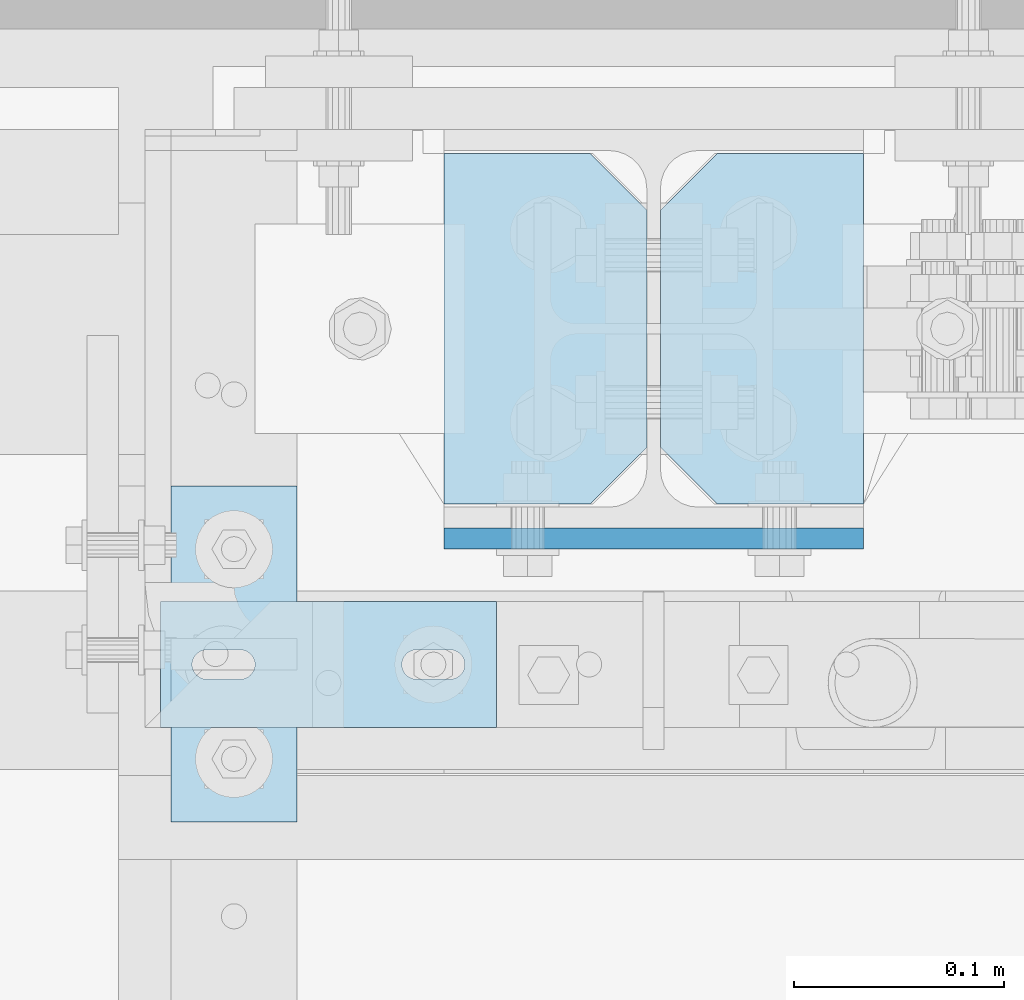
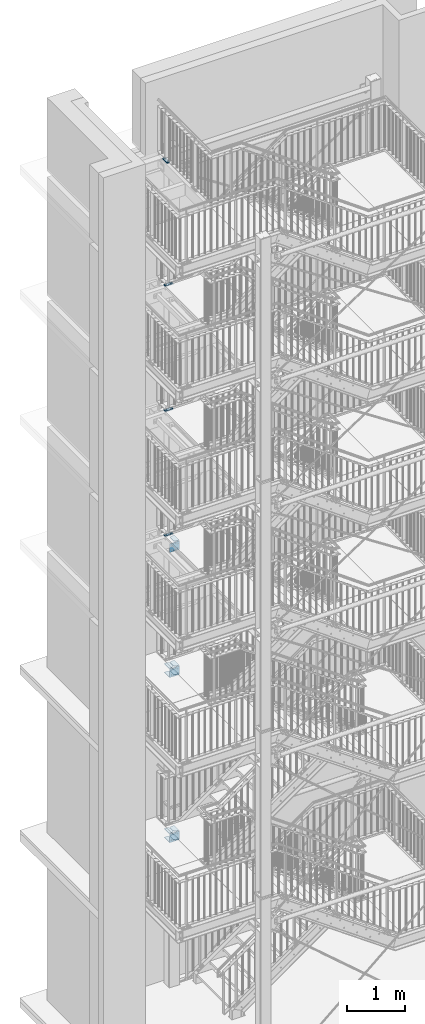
# One storey, part 185 of 825: 16 plates, 50 openings.
"""IFC2X3 building model written with IfcOpenShell, lengths in millimetres."""

from ifc_helpers import new_model, entity, si_unit, converted_unit, point, frame, frame_2d, origin, origin_with_axes, origin_2d_with_axis, place, context, project, spatial, polyline, circle_curve, line_curve, trimmed, segment, composite_curve, circle, outline, extrude, material, layer, layer_set, element, save


model = new_model("IFC2X3")

# Units and contexts
model_context = context("Model", 3, precision=1e-09, world=origin_with_axes())
ifc_project = project(units=[si_unit("LENGTHUNIT", "METRE", prefix="MILLI"), si_unit("AREAUNIT", "SQUARE_METRE"), si_unit("VOLUMEUNIT", "CUBIC_METRE"), converted_unit("PLANEANGLEUNIT", "DEGREE", entity("IfcPlaneAngleMeasure", 0.01745329), si_unit("PLANEANGLEUNIT", "RADIAN"), dimensions=[0, 0, 0, 0, 0, 0, 0])], contexts=[model_context])

# Site, building, storey
site_placement = place(None, origin_with_axes())
site = spatial("IfcSite", under=ifc_project, at=site_placement, Name="Cnopf'sche Kinderklinik", CompositionType="ELEMENT")
building_placement = place(site_placement, origin_with_axes())
building = spatial("IfcBuilding", under=site, at=building_placement, Name="Struktur 1", CompositionType="ELEMENT")
storey_placement = place(building_placement, origin_with_axes())
storey = spatial("IfcBuildingStorey", under=building, at=storey_placement, Name="Default Storey", CompositionType="ELEMENT", Elevation=0.0)

# Plate, openings
ifc_material = material(Name="S235JR")
ifc_layer_1 = layer(ifc_material, 20.0)
ifc_layer_set_1 = layer_set([ifc_layer_1], Name="S235JR")
plate_1_placement = place(None, frame((4781.713402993, 7386.736971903, 9952.0), z_axis=(0.0, 0.0, 1.0), x_axis=(-1.0, 0.0, 0.0)))
plate_1 = element("IfcPlate", 1, at=plate_1_placement, inside=storey, material=ifc_layer_set_1, Name="Plate#500", ObjectType="Plate#500", context=model_context, shape_type="SweptSolid", body=[
    extrude(outline(polyline([(0.0, 0.0), (160.0, 0.0), (160.0, 60.0), (0.0, 60.0), (0.0, 0.0)])), origin_with_axes(), (0.0, 0.0, 1.0), 20.0),
])
opening_1_placement = place(plate_1_placement, frame((38.0, 37.001, 20.5), z_axis=(0.0, 0.0, 1.0), x_axis=(-1.0, 0.0, 0.0)))
element("IfcOpeningElement", 2, at=opening_1_placement, cuts=plate_1, ObjectType="Opening", context=model_context, shape_type="SweptSolid", body=[
    extrude(outline(composite_curve([segment(trimmed(line_curve((0.0, 0.0), (1.0, 0.0), 16.0), [point((0.0, 0.0))], [point((16.0, 0.0))], True, "CARTESIAN"), True, "CONTINUOUS"), segment(trimmed(circle_curve(frame_2d((16.0, 7.001), x_axis=(1.0, 0.0)), 7.001), [point((16.0, 0.0))], [point((16.0, 14.002))], True, "CARTESIAN"), True, "CONTINUOUS"), segment(trimmed(line_curve((16.0, 14.002), (-1.0, 0.0), 16.0), [point((16.0, 14.002))], [point((0.0, 14.002))], True, "CARTESIAN"), True, "CONTINUOUS"), segment(trimmed(circle_curve(frame_2d((0.0, 7.001), x_axis=(1.0, 0.0)), 7.001), [point((0.0, 14.002))], [point((0.0, 0.0))], True, "CARTESIAN"), True, "CONTINUOUS")], self_intersect=False)), origin(), (0.0, 0.0, -1.0), 21.0),
])
opening_2_placement = place(plate_1_placement, frame((138.0, 37.001, 20.5), z_axis=(0.0, 0.0, 1.0), x_axis=(-1.0, 0.0, 0.0)))
element("IfcOpeningElement", 3, at=opening_2_placement, cuts=plate_1, ObjectType="Opening", context=model_context, shape_type="SweptSolid", body=[
    extrude(outline(composite_curve([segment(trimmed(line_curve((0.0, 0.0), (1.0, 0.0), 16.0), [point((0.0, 0.0))], [point((16.0, 0.0))], True, "CARTESIAN"), True, "CONTINUOUS"), segment(trimmed(circle_curve(frame_2d((16.0, 7.001), x_axis=(1.0, 0.0)), 7.001), [point((16.0, 0.0))], [point((16.0, 14.002))], True, "CARTESIAN"), True, "CONTINUOUS"), segment(trimmed(line_curve((16.0, 14.002), (-1.0, 0.0), 16.0), [point((16.0, 14.002))], [point((0.0, 14.002))], True, "CARTESIAN"), True, "CONTINUOUS"), segment(trimmed(circle_curve(frame_2d((0.0, 7.001), x_axis=(1.0, 0.0)), 7.001), [point((0.0, 14.002))], [point((0.0, 0.0))], True, "CARTESIAN"), True, "CONTINUOUS")], self_intersect=False)), origin(), (0.0, 0.0, -1.0), 21.0),
])

plate_2_placement = place(None, frame((4781.713402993, 7386.736971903, 12579.0), z_axis=(0.0, 0.0, 1.0), x_axis=(-1.0, 0.0, 0.0)))
plate_2 = element("IfcPlate", 4, at=plate_2_placement, inside=storey, material=ifc_layer_set_1, Name="Plate#500", ObjectType="Plate#500", context=model_context, shape_type="SweptSolid", body=[
    extrude(outline(polyline([(0.0, 0.0), (160.0, 0.0), (160.0, 60.0), (0.0, 60.0), (0.0, 0.0)])), origin_with_axes(), (0.0, 0.0, 1.0), 20.0),
])
opening_3_placement = place(plate_2_placement, frame((38.0, 37.001, 20.5), z_axis=(0.0, 0.0, 1.0), x_axis=(-1.0, 0.0, 0.0)))
element("IfcOpeningElement", 5, at=opening_3_placement, cuts=plate_2, ObjectType="Opening", context=model_context, shape_type="SweptSolid", body=[
    extrude(outline(composite_curve([segment(trimmed(line_curve((0.0, 0.0), (1.0, 0.0), 16.0), [point((0.0, 0.0))], [point((16.0, 0.0))], True, "CARTESIAN"), True, "CONTINUOUS"), segment(trimmed(circle_curve(frame_2d((16.0, 7.001), x_axis=(1.0, 0.0)), 7.001), [point((16.0, 0.0))], [point((16.0, 14.002))], True, "CARTESIAN"), True, "CONTINUOUS"), segment(trimmed(line_curve((16.0, 14.002), (-1.0, 0.0), 16.0), [point((16.0, 14.002))], [point((0.0, 14.002))], True, "CARTESIAN"), True, "CONTINUOUS"), segment(trimmed(circle_curve(frame_2d((0.0, 7.001), x_axis=(1.0, 0.0)), 7.001), [point((0.0, 14.002))], [point((0.0, 0.0))], True, "CARTESIAN"), True, "CONTINUOUS")], self_intersect=False)), origin(), (0.0, 0.0, -1.0), 21.0),
])
opening_4_placement = place(plate_2_placement, frame((138.0, 37.001, 20.5), z_axis=(0.0, 0.0, 1.0), x_axis=(-1.0, 0.0, 0.0)))
element("IfcOpeningElement", 6, at=opening_4_placement, cuts=plate_2, ObjectType="Opening", context=model_context, shape_type="SweptSolid", body=[
    extrude(outline(composite_curve([segment(trimmed(line_curve((0.0, 0.0), (1.0, 0.0), 16.0), [point((0.0, 0.0))], [point((16.0, 0.0))], True, "CARTESIAN"), True, "CONTINUOUS"), segment(trimmed(circle_curve(frame_2d((16.0, 7.001), x_axis=(1.0, 0.0)), 7.001), [point((16.0, 0.0))], [point((16.0, 14.002))], True, "CARTESIAN"), True, "CONTINUOUS"), segment(trimmed(line_curve((16.0, 14.002), (-1.0, 0.0), 16.0), [point((16.0, 14.002))], [point((0.0, 14.002))], True, "CARTESIAN"), True, "CONTINUOUS"), segment(trimmed(circle_curve(frame_2d((0.0, 7.001), x_axis=(1.0, 0.0)), 7.001), [point((0.0, 14.002))], [point((0.0, 0.0))], True, "CARTESIAN"), True, "CONTINUOUS")], self_intersect=False)), origin(), (0.0, 0.0, -1.0), 21.0),
])

plate_3_placement = place(None, frame((4781.713402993, 7386.736971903, 15214.0), z_axis=(0.0, 0.0, 1.0), x_axis=(-1.0, 0.0, 0.0)))
plate_3 = element("IfcPlate", 7, at=plate_3_placement, inside=storey, material=ifc_layer_set_1, Name="Plate#500", ObjectType="Plate#500", context=model_context, shape_type="SweptSolid", body=[
    extrude(outline(polyline([(0.0, 0.0), (160.0, 0.0), (160.0, 60.0), (0.0, 60.0), (0.0, 0.0)])), origin_with_axes(), (0.0, 0.0, 1.0), 20.0),
])
opening_5_placement = place(plate_3_placement, frame((38.0, 37.001, 20.5), z_axis=(0.0, 0.0, 1.0), x_axis=(-1.0, 0.0, 0.0)))
element("IfcOpeningElement", 8, at=opening_5_placement, cuts=plate_3, ObjectType="Opening", context=model_context, shape_type="SweptSolid", body=[
    extrude(outline(composite_curve([segment(trimmed(line_curve((0.0, 0.0), (1.0, 0.0), 16.0), [point((0.0, 0.0))], [point((16.0, 0.0))], True, "CARTESIAN"), True, "CONTINUOUS"), segment(trimmed(circle_curve(frame_2d((16.0, 7.001), x_axis=(1.0, 0.0)), 7.001), [point((16.0, 0.0))], [point((16.0, 14.002))], True, "CARTESIAN"), True, "CONTINUOUS"), segment(trimmed(line_curve((16.0, 14.002), (-1.0, 0.0), 16.0), [point((16.0, 14.002))], [point((0.0, 14.002))], True, "CARTESIAN"), True, "CONTINUOUS"), segment(trimmed(circle_curve(frame_2d((0.0, 7.001), x_axis=(1.0, 0.0)), 7.001), [point((0.0, 14.002))], [point((0.0, 0.0))], True, "CARTESIAN"), True, "CONTINUOUS")], self_intersect=False)), origin(), (0.0, 0.0, -1.0), 21.0),
])
opening_6_placement = place(plate_3_placement, frame((138.0, 37.001, 20.5), z_axis=(0.0, 0.0, 1.0), x_axis=(-1.0, 0.0, 0.0)))
element("IfcOpeningElement", 9, at=opening_6_placement, cuts=plate_3, ObjectType="Opening", context=model_context, shape_type="SweptSolid", body=[
    extrude(outline(composite_curve([segment(trimmed(line_curve((0.0, 0.0), (1.0, 0.0), 16.0), [point((0.0, 0.0))], [point((16.0, 0.0))], True, "CARTESIAN"), True, "CONTINUOUS"), segment(trimmed(circle_curve(frame_2d((16.0, 7.001), x_axis=(1.0, 0.0)), 7.001), [point((16.0, 0.0))], [point((16.0, 14.002))], True, "CARTESIAN"), True, "CONTINUOUS"), segment(trimmed(line_curve((16.0, 14.002), (-1.0, 0.0), 16.0), [point((16.0, 14.002))], [point((0.0, 14.002))], True, "CARTESIAN"), True, "CONTINUOUS"), segment(trimmed(circle_curve(frame_2d((0.0, 7.001), x_axis=(1.0, 0.0)), 7.001), [point((0.0, 14.002))], [point((0.0, 0.0))], True, "CARTESIAN"), True, "CONTINUOUS")], self_intersect=False)), origin(), (0.0, 0.0, -1.0), 21.0),
])

plate_4_placement = place(None, frame((4626.713402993, 7441.736971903, 17834.0), z_axis=(0.0, 0.0, 1.0), x_axis=(0.0, -1.0, 0.0)))
plate_4 = element("IfcPlate", 10, at=plate_4_placement, inside=storey, material=ifc_layer_set_1, Name="Plate#504", ObjectType="Plate#504", context=model_context, shape_type="SweptSolid", body=[
    extrude(outline(polyline([(0.0, 0.0), (160.0, 0.0), (160.0, 60.0), (0.0, 60.0), (0.0, 0.0)])), origin_with_axes(), (0.0, 0.0, 1.0), 20.0),
])
opening_7_placement = place(plate_4_placement, frame((38.0, 37.001, 20.5), z_axis=(0.0, 0.0, 1.0), x_axis=(-1.0, 0.0, 0.0)))
element("IfcOpeningElement", 11, at=opening_7_placement, cuts=plate_4, ObjectType="Opening", context=model_context, shape_type="SweptSolid", body=[
    extrude(outline(composite_curve([segment(trimmed(line_curve((0.0, 0.0), (1.0, 0.0), 16.0), [point((0.0, 0.0))], [point((16.0, 0.0))], True, "CARTESIAN"), True, "CONTINUOUS"), segment(trimmed(circle_curve(frame_2d((16.0, 7.001), x_axis=(1.0, 0.0)), 7.001), [point((16.0, 0.0))], [point((16.0, 14.002))], True, "CARTESIAN"), True, "CONTINUOUS"), segment(trimmed(line_curve((16.0, 14.002), (-1.0, 0.0), 16.0), [point((16.0, 14.002))], [point((0.0, 14.002))], True, "CARTESIAN"), True, "CONTINUOUS"), segment(trimmed(circle_curve(frame_2d((0.0, 7.001), x_axis=(1.0, 0.0)), 7.001), [point((0.0, 14.002))], [point((0.0, 0.0))], True, "CARTESIAN"), True, "CONTINUOUS")], self_intersect=False)), origin(), (0.0, 0.0, -1.0), 21.0),
])
opening_8_placement = place(plate_4_placement, frame((138.0, 37.001, 20.5), z_axis=(0.0, 0.0, 1.0), x_axis=(-1.0, 0.0, 0.0)))
element("IfcOpeningElement", 12, at=opening_8_placement, cuts=plate_4, ObjectType="Opening", context=model_context, shape_type="SweptSolid", body=[
    extrude(outline(composite_curve([segment(trimmed(line_curve((0.0, 0.0), (1.0, 0.0), 16.0), [point((0.0, 0.0))], [point((16.0, 0.0))], True, "CARTESIAN"), True, "CONTINUOUS"), segment(trimmed(circle_curve(frame_2d((16.0, 7.001), x_axis=(1.0, 0.0)), 7.001), [point((16.0, 0.0))], [point((16.0, 14.002))], True, "CARTESIAN"), True, "CONTINUOUS"), segment(trimmed(line_curve((16.0, 14.002), (-1.0, 0.0), 16.0), [point((16.0, 14.002))], [point((0.0, 14.002))], True, "CARTESIAN"), True, "CONTINUOUS"), segment(trimmed(circle_curve(frame_2d((0.0, 7.001), x_axis=(1.0, 0.0)), 7.001), [point((0.0, 14.002))], [point((0.0, 0.0))], True, "CARTESIAN"), True, "CONTINUOUS")], self_intersect=False)), origin(), (0.0, 0.0, -1.0), 21.0),
])

ifc_layer_2 = layer(ifc_material, 10.0)
ifc_layer_set_2 = layer_set([ifc_layer_2], Name="S235JR")
plate_5_placement = place(None, frame((4856.713402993, 7411.736971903, 3512.0), z_axis=(0.0, 1.0, 0.0), x_axis=(0.0, 0.0, -1.0)))
plate_5 = element("IfcPlate", 13, at=plate_5_placement, inside=storey, material=ifc_layer_set_2, Name="Endplate", ObjectType="Endplate", context=model_context, shape_type="SweptSolid", body=[
    extrude(outline(polyline([(-90.0, -100.0), (90.0, -100.0), (90.0, 100.0), (-90.0, 100.0), (-90.0, -100.0)])), origin_with_axes(), (0.0, 0.0, 1.0), 10.0),
])
opening_9_placement = place(plate_5_placement, frame((-67.0, 21.25, 10.5), z_axis=(0.0, 0.0, -1.0), x_axis=(-1.0, 0.0, 0.0)))
element("IfcOpeningElement", 14, at=opening_9_placement, cuts=plate_5, ObjectType="Opening", context=model_context, shape_type="SweptSolid", body=[
    extrude(circle(Radius=6.001, at=origin_2d_with_axis()), origin(), (0.0, 0.0, 1.0), 11.0),
])
opening_10_placement = place(plate_5_placement, frame((67.0, 21.25, 10.5), z_axis=(0.0, 0.0, -1.0), x_axis=(-1.0, 0.0, 0.0)))
element("IfcOpeningElement", 15, at=opening_10_placement, cuts=plate_5, ObjectType="Opening", context=model_context, shape_type="SweptSolid", body=[
    extrude(circle(Radius=6.001, at=origin_2d_with_axis()), origin(), (0.0, 0.0, 1.0), 11.0),
])
opening_11_placement = place(plate_5_placement, frame((67.0, -21.25, 10.5), z_axis=(0.0, 0.0, -1.0), x_axis=(-1.0, 0.0, 0.0)))
element("IfcOpeningElement", 16, at=opening_11_placement, cuts=plate_5, ObjectType="Opening", context=model_context, shape_type="SweptSolid", body=[
    extrude(circle(Radius=6.001, at=origin_2d_with_axis()), origin(), (0.0, 0.0, 1.0), 11.0),
])
opening_12_placement = place(plate_5_placement, frame((-67.0, -21.25, 10.5), z_axis=(0.0, 0.0, -1.0), x_axis=(-1.0, 0.0, 0.0)))
element("IfcOpeningElement", 17, at=opening_12_placement, cuts=plate_5, ObjectType="Opening", context=model_context, shape_type="SweptSolid", body=[
    extrude(circle(Radius=6.001, at=origin_2d_with_axis()), origin(), (0.0, 0.0, 1.0), 11.0),
])
opening_13_placement = place(plate_5_placement, frame((-45.0, -60.0, 10.5), z_axis=(0.0, 0.0, -1.0), x_axis=(0.0, -1.0, 0.0)))
element("IfcOpeningElement", 18, at=opening_13_placement, cuts=plate_5, ObjectType="Opening", context=model_context, shape_type="SweptSolid", body=[
    extrude(circle(Radius=9.001, at=origin_2d_with_axis()), origin(), (0.0, 0.0, 1.0), 11.0),
])
opening_14_placement = place(plate_5_placement, frame((45.0, -60.0, 10.5), z_axis=(0.0, 0.0, -1.0), x_axis=(0.0, -1.0, 0.0)))
element("IfcOpeningElement", 19, at=opening_14_placement, cuts=plate_5, ObjectType="Opening", context=model_context, shape_type="SweptSolid", body=[
    extrude(circle(Radius=9.001, at=origin_2d_with_axis()), origin(), (0.0, 0.0, 1.0), 11.0),
])
opening_15_placement = place(plate_5_placement, frame((45.0, 60.0, 10.5), z_axis=(0.0, 0.0, -1.0), x_axis=(0.0, 1.0, 0.0)))
element("IfcOpeningElement", 20, at=opening_15_placement, cuts=plate_5, ObjectType="Opening", context=model_context, shape_type="SweptSolid", body=[
    extrude(circle(Radius=9.001, at=origin_2d_with_axis()), origin(), (0.0, 0.0, 1.0), 11.0),
])
opening_16_placement = place(plate_5_placement, frame((-45.0, 60.0, 10.5), z_axis=(0.0, 0.0, -1.0), x_axis=(0.0, 1.0, 0.0)))
element("IfcOpeningElement", 21, at=opening_16_placement, cuts=plate_5, ObjectType="Opening", context=model_context, shape_type="SweptSolid", body=[
    extrude(circle(Radius=9.001, at=origin_2d_with_axis()), origin(), (0.0, 0.0, 1.0), 11.0),
])

plate_6_placement = place(None, frame((4859.963402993, 7433.236971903, 3597.0), z_axis=(0.0, 0.0, 1.0), x_axis=(1.0, 0.0, 0.0)))
plate_6 = element("IfcPlate", 22, at=plate_6_placement, inside=storey, material=ifc_layer_set_2, Name="Stiffener#1", ObjectType="Stiffener#1", context=model_context, shape_type="SweptSolid", body=[
    extrude(outline(polyline([(0.0, 0.0), (96.75, 0.0), (96.75, 167.0), (0.0, 167.0), (0.0, 0.0)])), origin_with_axes(), (0.0, 0.0, 1.0), 10.0),
])
opening_17_placement = place(plate_6_placement, frame((0.0, 0.0, -0.01), z_axis=(0.0, 0.0, 1.0), x_axis=(1.0, 0.0, 0.0)))
element("IfcOpeningElement", 23, at=opening_17_placement, cuts=plate_6, ObjectType="Opening", context=model_context, shape_type="SweptSolid", body=[
    extrude(outline(polyline([(0.0, 167.0), (0.0, 140.0), (27.0, 167.0), (0.0, 167.0)])), origin(), (0.0, 0.0, 1.0), 10.02),
])
opening_18_placement = place(plate_6_placement, frame((0.0, 0.0, -0.01), z_axis=(0.0, 0.0, 1.0), x_axis=(1.0, 0.0, 0.0)))
element("IfcOpeningElement", 24, at=opening_18_placement, cuts=plate_6, ObjectType="Opening", context=model_context, shape_type="SweptSolid", body=[
    extrude(outline(polyline([(0.0, 0.0), (27.0, 0.0), (0.0, 27.0), (0.0, 0.0)])), origin(), (0.0, 0.0, 1.0), 10.02),
])

plate_7_placement = place(None, frame((4756.713402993, 7433.236971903, 3597.0), z_axis=(0.0, 0.0, 1.0), x_axis=(1.0, 0.0, 0.0)))
plate_7 = element("IfcPlate", 25, at=plate_7_placement, inside=storey, material=ifc_layer_set_2, Name="Stiffener#2", ObjectType="Stiffener#2", context=model_context, shape_type="SweptSolid", body=[
    extrude(outline(polyline([(0.0, 0.0), (96.75, 0.0), (96.75, 167.0), (0.0, 167.0), (0.0, 0.0)])), origin_with_axes(), (0.0, 0.0, 1.0), 10.0),
])
opening_19_placement = place(plate_7_placement, frame((0.0, 0.0, -0.01), z_axis=(0.0, 0.0, 1.0), x_axis=(1.0, 0.0, 0.0)))
element("IfcOpeningElement", 26, at=opening_19_placement, cuts=plate_7, ObjectType="Opening", context=model_context, shape_type="SweptSolid", body=[
    extrude(outline(polyline([(96.75, 167.0), (69.75, 167.0), (96.75, 140.0), (96.75, 167.0)])), origin(), (0.0, 0.0, 1.0), 10.02),
])
opening_20_placement = place(plate_7_placement, frame((0.0, 0.0, -0.01), z_axis=(0.0, 0.0, 1.0), x_axis=(1.0, 0.0, 0.0)))
element("IfcOpeningElement", 27, at=opening_20_placement, cuts=plate_7, ObjectType="Opening", context=model_context, shape_type="SweptSolid", body=[
    extrude(outline(polyline([(96.75, 0.0), (96.75, 27.0), (69.75, 0.0), (96.75, 0.0)])), origin(), (0.0, 0.0, 1.0), 10.02),
])

plate_8_placement = place(None, frame((4956.713402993, 7433.236971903, 3427.0), z_axis=(0.0, 0.0, -1.0), x_axis=(-1.0, 0.0, 0.0)))
plate_8 = element("IfcPlate", 28, at=plate_8_placement, inside=storey, material=ifc_layer_set_2, Name="Stiffener#3", ObjectType="Stiffener#3", context=model_context, shape_type="SweptSolid", body=[
    extrude(outline(polyline([(0.0, 0.0), (96.75, 0.0), (96.75, 167.0), (0.0, 167.0), (0.0, 0.0)])), origin_with_axes(), (0.0, 0.0, 1.0), 10.0),
])
opening_21_placement = place(plate_8_placement, frame((0.0, 0.0, -0.01), z_axis=(0.0, 0.0, 1.0), x_axis=(1.0, 0.0, 0.0)))
element("IfcOpeningElement", 29, at=opening_21_placement, cuts=plate_8, ObjectType="Opening", context=model_context, shape_type="SweptSolid", body=[
    extrude(outline(polyline([(96.75, 167.0), (69.75, 167.0), (96.75, 140.0), (96.75, 167.0)])), origin(), (0.0, 0.0, 1.0), 10.02),
])
opening_22_placement = place(plate_8_placement, frame((0.0, 0.0, -0.01), z_axis=(0.0, 0.0, 1.0), x_axis=(1.0, 0.0, 0.0)))
element("IfcOpeningElement", 30, at=opening_22_placement, cuts=plate_8, ObjectType="Opening", context=model_context, shape_type="SweptSolid", body=[
    extrude(outline(polyline([(96.75, 0.0), (96.75, 27.0), (69.75, 0.0), (96.75, 0.0)])), origin(), (0.0, 0.0, 1.0), 10.02),
])

plate_9_placement = place(None, frame((4853.463402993, 7433.236971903, 3427.0), z_axis=(0.0, 0.0, -1.0), x_axis=(-1.0, 0.0, 0.0)))
plate_9 = element("IfcPlate", 31, at=plate_9_placement, inside=storey, material=ifc_layer_set_2, Name="Stiffener#4", ObjectType="Stiffener#4", context=model_context, shape_type="SweptSolid", body=[
    extrude(outline(polyline([(0.0, 0.0), (96.75, 0.0), (96.75, 167.0), (0.0, 167.0), (0.0, 0.0)])), origin_with_axes(), (0.0, 0.0, 1.0), 10.0),
])
opening_23_placement = place(plate_9_placement, frame((0.0, 0.0, -0.01), z_axis=(0.0, 0.0, 1.0), x_axis=(1.0, 0.0, 0.0)))
element("IfcOpeningElement", 32, at=opening_23_placement, cuts=plate_9, ObjectType="Opening", context=model_context, shape_type="SweptSolid", body=[
    extrude(outline(polyline([(0.0, 167.0), (0.0, 140.0), (27.0, 167.0), (0.0, 167.0)])), origin(), (0.0, 0.0, 1.0), 10.02),
])
opening_24_placement = place(plate_9_placement, frame((0.0, 0.0, -0.01), z_axis=(0.0, 0.0, 1.0), x_axis=(1.0, 0.0, 0.0)))
element("IfcOpeningElement", 33, at=opening_24_placement, cuts=plate_9, ObjectType="Opening", context=model_context, shape_type="SweptSolid", body=[
    extrude(outline(polyline([(0.0, 0.0), (27.0, 0.0), (0.0, 27.0), (0.0, 0.0)])), origin(), (0.0, 0.0, 1.0), 10.02),
])

plate_10_placement = place(None, frame((4856.713402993, 7411.736971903, 6985.0), z_axis=(0.0, 1.0, 0.0), x_axis=(0.0, 0.0, -1.0)))
plate_10 = element("IfcPlate", 34, at=plate_10_placement, inside=storey, material=ifc_layer_set_2, Name="Endplate", ObjectType="Endplate", context=model_context, shape_type="SweptSolid", body=[
    extrude(outline(polyline([(-90.0, -100.0), (90.0, -100.0), (90.0, 100.0), (-90.0, 100.0), (-90.0, -100.0)])), origin_with_axes(), (0.0, 0.0, 1.0), 10.0),
])
opening_25_placement = place(plate_10_placement, frame((-67.0, 21.25, 10.5), z_axis=(0.0, 0.0, -1.0), x_axis=(-1.0, 0.0, 0.0)))
element("IfcOpeningElement", 35, at=opening_25_placement, cuts=plate_10, ObjectType="Opening", context=model_context, shape_type="SweptSolid", body=[
    extrude(circle(Radius=6.001, at=origin_2d_with_axis()), origin(), (0.0, 0.0, 1.0), 11.0),
])
opening_26_placement = place(plate_10_placement, frame((67.0, 21.25, 10.5), z_axis=(0.0, 0.0, -1.0), x_axis=(-1.0, 0.0, 0.0)))
element("IfcOpeningElement", 36, at=opening_26_placement, cuts=plate_10, ObjectType="Opening", context=model_context, shape_type="SweptSolid", body=[
    extrude(circle(Radius=6.001, at=origin_2d_with_axis()), origin(), (0.0, 0.0, 1.0), 11.0),
])
opening_27_placement = place(plate_10_placement, frame((67.0, -21.25, 10.5), z_axis=(0.0, 0.0, -1.0), x_axis=(-1.0, 0.0, 0.0)))
element("IfcOpeningElement", 37, at=opening_27_placement, cuts=plate_10, ObjectType="Opening", context=model_context, shape_type="SweptSolid", body=[
    extrude(circle(Radius=6.001, at=origin_2d_with_axis()), origin(), (0.0, 0.0, 1.0), 11.0),
])
opening_28_placement = place(plate_10_placement, frame((-67.0, -21.25, 10.5), z_axis=(0.0, 0.0, -1.0), x_axis=(-1.0, 0.0, 0.0)))
element("IfcOpeningElement", 38, at=opening_28_placement, cuts=plate_10, ObjectType="Opening", context=model_context, shape_type="SweptSolid", body=[
    extrude(circle(Radius=6.001, at=origin_2d_with_axis()), origin(), (0.0, 0.0, 1.0), 11.0),
])
opening_29_placement = place(plate_10_placement, frame((-45.0, -60.0, 10.5), z_axis=(0.0, 0.0, -1.0), x_axis=(0.0, -1.0, 0.0)))
element("IfcOpeningElement", 39, at=opening_29_placement, cuts=plate_10, ObjectType="Opening", context=model_context, shape_type="SweptSolid", body=[
    extrude(circle(Radius=9.001, at=origin_2d_with_axis()), origin(), (0.0, 0.0, 1.0), 11.0),
])
opening_30_placement = place(plate_10_placement, frame((45.0, -60.0, 10.5), z_axis=(0.0, 0.0, -1.0), x_axis=(0.0, -1.0, 0.0)))
element("IfcOpeningElement", 40, at=opening_30_placement, cuts=plate_10, ObjectType="Opening", context=model_context, shape_type="SweptSolid", body=[
    extrude(circle(Radius=9.001, at=origin_2d_with_axis()), origin(), (0.0, 0.0, 1.0), 11.0),
])
opening_31_placement = place(plate_10_placement, frame((-45.0, 60.0, 10.5), z_axis=(0.0, 0.0, -1.0), x_axis=(0.0, 1.0, 0.0)))
element("IfcOpeningElement", 41, at=opening_31_placement, cuts=plate_10, ObjectType="Opening", context=model_context, shape_type="SweptSolid", body=[
    extrude(circle(Radius=9.001, at=origin_2d_with_axis()), origin(), (0.0, 0.0, 1.0), 11.0),
])
opening_32_placement = place(plate_10_placement, frame((45.0, 60.0, 10.5), z_axis=(0.0, 0.0, -1.0), x_axis=(0.0, 1.0, 0.0)))
element("IfcOpeningElement", 42, at=opening_32_placement, cuts=plate_10, ObjectType="Opening", context=model_context, shape_type="SweptSolid", body=[
    extrude(circle(Radius=9.001, at=origin_2d_with_axis()), origin(), (0.0, 0.0, 1.0), 11.0),
])

plate_11_placement = place(None, frame((4859.963402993, 7433.236971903, 7070.0), z_axis=(0.0, 0.0, 1.0), x_axis=(1.0, 0.0, 0.0)))
plate_11 = element("IfcPlate", 43, at=plate_11_placement, inside=storey, material=ifc_layer_set_2, Name="Stiffener#1", ObjectType="Stiffener#1", context=model_context, shape_type="SweptSolid", body=[
    extrude(outline(polyline([(0.0, 0.0), (96.75, 0.0), (96.75, 167.0), (0.0, 167.0), (0.0, 0.0)])), origin_with_axes(), (0.0, 0.0, 1.0), 10.0),
])
opening_33_placement = place(plate_11_placement, frame((0.0, 0.0, -0.01), z_axis=(0.0, 0.0, 1.0), x_axis=(1.0, 0.0, 0.0)))
element("IfcOpeningElement", 44, at=opening_33_placement, cuts=plate_11, ObjectType="Opening", context=model_context, shape_type="SweptSolid", body=[
    extrude(outline(polyline([(0.0, 167.0), (0.0, 140.0), (27.0, 167.0), (0.0, 167.0)])), origin(), (0.0, 0.0, 1.0), 10.02),
])
opening_34_placement = place(plate_11_placement, frame((0.0, 0.0, -0.01), z_axis=(0.0, 0.0, 1.0), x_axis=(1.0, 0.0, 0.0)))
element("IfcOpeningElement", 45, at=opening_34_placement, cuts=plate_11, ObjectType="Opening", context=model_context, shape_type="SweptSolid", body=[
    extrude(outline(polyline([(0.0, 0.0), (27.0, 0.0), (0.0, 27.0), (0.0, 0.0)])), origin(), (0.0, 0.0, 1.0), 10.02),
])

plate_12_placement = place(None, frame((4756.713402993, 7433.236971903, 7070.0), z_axis=(0.0, 0.0, 1.0), x_axis=(1.0, 0.0, 0.0)))
plate_12 = element("IfcPlate", 46, at=plate_12_placement, inside=storey, material=ifc_layer_set_2, Name="Stiffener#2", ObjectType="Stiffener#2", context=model_context, shape_type="SweptSolid", body=[
    extrude(outline(polyline([(0.0, 0.0), (96.75, 0.0), (96.75, 167.0), (0.0, 167.0), (0.0, 0.0)])), origin_with_axes(), (0.0, 0.0, 1.0), 10.0),
])
opening_35_placement = place(plate_12_placement, frame((0.0, 0.0, -0.01), z_axis=(0.0, 0.0, 1.0), x_axis=(1.0, 0.0, 0.0)))
element("IfcOpeningElement", 47, at=opening_35_placement, cuts=plate_12, ObjectType="Opening", context=model_context, shape_type="SweptSolid", body=[
    extrude(outline(polyline([(96.75, 167.0), (69.75, 167.0), (96.75, 140.0), (96.75, 167.0)])), origin(), (0.0, 0.0, 1.0), 10.02),
])
opening_36_placement = place(plate_12_placement, frame((0.0, 0.0, -0.01), z_axis=(0.0, 0.0, 1.0), x_axis=(1.0, 0.0, 0.0)))
element("IfcOpeningElement", 48, at=opening_36_placement, cuts=plate_12, ObjectType="Opening", context=model_context, shape_type="SweptSolid", body=[
    extrude(outline(polyline([(96.75, 0.0), (96.75, 27.0), (69.75, 0.0), (96.75, 0.0)])), origin(), (0.0, 0.0, 1.0), 10.02),
])

plate_13_placement = place(None, frame((4956.713402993, 7433.236971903, 6900.0), z_axis=(0.0, 0.0, -1.0), x_axis=(-1.0, 0.0, 0.0)))
plate_13 = element("IfcPlate", 49, at=plate_13_placement, inside=storey, material=ifc_layer_set_2, Name="Stiffener#3", ObjectType="Stiffener#3", context=model_context, shape_type="SweptSolid", body=[
    extrude(outline(polyline([(0.0, 0.0), (96.75, 0.0), (96.75, 167.0), (0.0, 167.0), (0.0, 0.0)])), origin_with_axes(), (0.0, 0.0, 1.0), 10.0),
])
opening_37_placement = place(plate_13_placement, frame((0.0, 0.0, -0.01), z_axis=(0.0, 0.0, 1.0), x_axis=(1.0, 0.0, 0.0)))
element("IfcOpeningElement", 50, at=opening_37_placement, cuts=plate_13, ObjectType="Opening", context=model_context, shape_type="SweptSolid", body=[
    extrude(outline(polyline([(96.75, 167.0), (69.75, 167.0), (96.75, 140.0), (96.75, 167.0)])), origin(), (0.0, 0.0, 1.0), 10.02),
])
opening_38_placement = place(plate_13_placement, frame((0.0, 0.0, -0.01), z_axis=(0.0, 0.0, 1.0), x_axis=(1.0, 0.0, 0.0)))
element("IfcOpeningElement", 51, at=opening_38_placement, cuts=plate_13, ObjectType="Opening", context=model_context, shape_type="SweptSolid", body=[
    extrude(outline(polyline([(96.75, 0.0), (96.75, 27.0), (69.75, 0.0), (96.75, 0.0)])), origin(), (0.0, 0.0, 1.0), 10.02),
])

plate_14_placement = place(None, frame((4853.463402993, 7433.236971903, 6900.0), z_axis=(0.0, 0.0, -1.0), x_axis=(-1.0, 0.0, 0.0)))
plate_14 = element("IfcPlate", 52, at=plate_14_placement, inside=storey, material=ifc_layer_set_2, Name="Stiffener#4", ObjectType="Stiffener#4", context=model_context, shape_type="SweptSolid", body=[
    extrude(outline(polyline([(0.0, 0.0), (96.75, 0.0), (96.75, 167.0), (0.0, 167.0), (0.0, 0.0)])), origin_with_axes(), (0.0, 0.0, 1.0), 10.0),
])
opening_39_placement = place(plate_14_placement, frame((0.0, 0.0, -0.01), z_axis=(0.0, 0.0, 1.0), x_axis=(1.0, 0.0, 0.0)))
element("IfcOpeningElement", 53, at=opening_39_placement, cuts=plate_14, ObjectType="Opening", context=model_context, shape_type="SweptSolid", body=[
    extrude(outline(polyline([(0.0, 167.0), (0.0, 140.0), (27.0, 167.0), (0.0, 167.0)])), origin(), (0.0, 0.0, 1.0), 10.02),
])
opening_40_placement = place(plate_14_placement, frame((0.0, 0.0, -0.01), z_axis=(0.0, 0.0, 1.0), x_axis=(1.0, 0.0, 0.0)))
element("IfcOpeningElement", 54, at=opening_40_placement, cuts=plate_14, ObjectType="Opening", context=model_context, shape_type="SweptSolid", body=[
    extrude(outline(polyline([(0.0, 0.0), (27.0, 0.0), (0.0, 27.0), (0.0, 0.0)])), origin(), (0.0, 0.0, 1.0), 10.02),
])

plate_15_placement = place(None, frame((4856.713402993, 7411.736971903, 9617.0), z_axis=(0.0, 1.0, 0.0), x_axis=(0.0, 0.0, -1.0)))
plate_15 = element("IfcPlate", 55, at=plate_15_placement, inside=storey, material=ifc_layer_set_2, Name="Endplate", ObjectType="Endplate", context=model_context, shape_type="SweptSolid", body=[
    extrude(outline(polyline([(-90.0, -100.0), (90.0, -100.0), (90.0, 100.0), (-90.0, 100.0), (-90.0, -100.0)])), origin_with_axes(), (0.0, 0.0, 1.0), 10.0),
])
opening_41_placement = place(plate_15_placement, frame((-67.0, 21.25, 10.5), z_axis=(0.0, 0.0, -1.0), x_axis=(-1.0, 0.0, 0.0)))
element("IfcOpeningElement", 56, at=opening_41_placement, cuts=plate_15, ObjectType="Opening", context=model_context, shape_type="SweptSolid", body=[
    extrude(circle(Radius=6.001, at=origin_2d_with_axis()), origin(), (0.0, 0.0, 1.0), 11.0),
])
opening_42_placement = place(plate_15_placement, frame((67.0, 21.25, 10.5), z_axis=(0.0, 0.0, -1.0), x_axis=(-1.0, 0.0, 0.0)))
element("IfcOpeningElement", 57, at=opening_42_placement, cuts=plate_15, ObjectType="Opening", context=model_context, shape_type="SweptSolid", body=[
    extrude(circle(Radius=6.001, at=origin_2d_with_axis()), origin(), (0.0, 0.0, 1.0), 11.0),
])
opening_43_placement = place(plate_15_placement, frame((67.0, -21.25, 10.5), z_axis=(0.0, 0.0, -1.0), x_axis=(-1.0, 0.0, 0.0)))
element("IfcOpeningElement", 58, at=opening_43_placement, cuts=plate_15, ObjectType="Opening", context=model_context, shape_type="SweptSolid", body=[
    extrude(circle(Radius=6.001, at=origin_2d_with_axis()), origin(), (0.0, 0.0, 1.0), 11.0),
])
opening_44_placement = place(plate_15_placement, frame((-67.0, -21.25, 10.5), z_axis=(0.0, 0.0, -1.0), x_axis=(-1.0, 0.0, 0.0)))
element("IfcOpeningElement", 59, at=opening_44_placement, cuts=plate_15, ObjectType="Opening", context=model_context, shape_type="SweptSolid", body=[
    extrude(circle(Radius=6.001, at=origin_2d_with_axis()), origin(), (0.0, 0.0, 1.0), 11.0),
])
opening_45_placement = place(plate_15_placement, frame((-45.0, 60.0, 10.5), z_axis=(0.0, 0.0, -1.0), x_axis=(0.0, 1.0, 0.0)))
element("IfcOpeningElement", 60, at=opening_45_placement, cuts=plate_15, ObjectType="Opening", context=model_context, shape_type="SweptSolid", body=[
    extrude(circle(Radius=9.001, at=origin_2d_with_axis()), origin(), (0.0, 0.0, 1.0), 11.0),
])
opening_46_placement = place(plate_15_placement, frame((-45.0, -60.0, 10.5), z_axis=(0.0, 0.0, -1.0), x_axis=(0.0, -1.0, 0.0)))
element("IfcOpeningElement", 61, at=opening_46_placement, cuts=plate_15, ObjectType="Opening", context=model_context, shape_type="SweptSolid", body=[
    extrude(circle(Radius=9.001, at=origin_2d_with_axis()), origin(), (0.0, 0.0, 1.0), 11.0),
])
opening_47_placement = place(plate_15_placement, frame((45.0, -60.0, 10.5), z_axis=(0.0, 0.0, -1.0), x_axis=(0.0, -1.0, 0.0)))
element("IfcOpeningElement", 62, at=opening_47_placement, cuts=plate_15, ObjectType="Opening", context=model_context, shape_type="SweptSolid", body=[
    extrude(circle(Radius=9.001, at=origin_2d_with_axis()), origin(), (0.0, 0.0, 1.0), 11.0),
])
opening_48_placement = place(plate_15_placement, frame((45.0, 60.0, 10.5), z_axis=(0.0, 0.0, -1.0), x_axis=(0.0, 1.0, 0.0)))
element("IfcOpeningElement", 63, at=opening_48_placement, cuts=plate_15, ObjectType="Opening", context=model_context, shape_type="SweptSolid", body=[
    extrude(circle(Radius=9.001, at=origin_2d_with_axis()), origin(), (0.0, 0.0, 1.0), 11.0),
])

plate_16_placement = place(None, frame((4859.963402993, 7433.236971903, 9702.0), z_axis=(0.0, 0.0, 1.0), x_axis=(1.0, 0.0, 0.0)))
plate_16 = element("IfcPlate", 64, at=plate_16_placement, inside=storey, material=ifc_layer_set_2, Name="Stiffener#1", ObjectType="Stiffener#1", context=model_context, shape_type="SweptSolid", body=[
    extrude(outline(polyline([(0.0, 0.0), (96.75, 0.0), (96.75, 167.0), (0.0, 167.0), (0.0, 0.0)])), origin_with_axes(), (0.0, 0.0, 1.0), 10.0),
])
opening_49_placement = place(plate_16_placement, frame((0.0, 0.0, -0.01), z_axis=(0.0, 0.0, 1.0), x_axis=(1.0, 0.0, 0.0)))
element("IfcOpeningElement", 65, at=opening_49_placement, cuts=plate_16, ObjectType="Opening", context=model_context, shape_type="SweptSolid", body=[
    extrude(outline(polyline([(0.0, 167.0), (0.0, 140.0), (27.0, 167.0), (0.0, 167.0)])), origin(), (0.0, 0.0, 1.0), 10.02),
])
opening_50_placement = place(plate_16_placement, frame((0.0, 0.0, -0.01), z_axis=(0.0, 0.0, 1.0), x_axis=(1.0, 0.0, 0.0)))
element("IfcOpeningElement", 66, at=opening_50_placement, cuts=plate_16, ObjectType="Opening", context=model_context, shape_type="SweptSolid", body=[
    extrude(outline(polyline([(0.0, 0.0), (27.0, 0.0), (0.0, 27.0), (0.0, 0.0)])), origin(), (0.0, 0.0, 1.0), 10.02),
])

save(model, "model.ifc")
